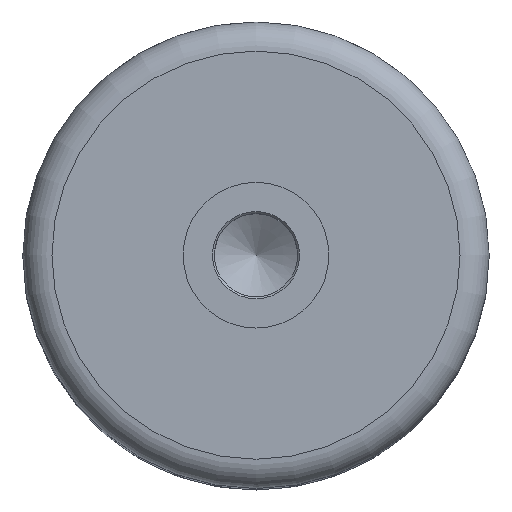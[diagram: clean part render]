
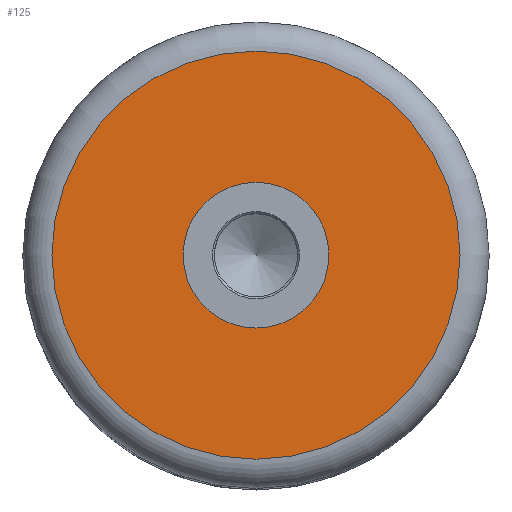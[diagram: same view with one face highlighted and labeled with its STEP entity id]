
A CAD part, top view. The second image highlights one B-rep face of the part: STEP entity #125.
In plain terms, the highlighted planar face has unit normal (0, 0, 1).
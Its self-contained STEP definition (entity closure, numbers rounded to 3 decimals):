
#125=ADVANCED_FACE('',(#219,#220),#221,.T.);
#219=FACE_BOUND('',#304,.T.);
#220=FACE_OUTER_BOUND('',#305,.T.);
#221=PLANE('',#306);
#304=EDGE_LOOP('',(#409));
#305=EDGE_LOOP('',(#410));
#306=AXIS2_PLACEMENT_3D('',#411,#412,#413);
#409=ORIENTED_EDGE('',*,*,#472,.F.);
#410=ORIENTED_EDGE('',*,*,#469,.T.);
#411=CARTESIAN_POINT('',(0.0,0.0,47.5));
#412=DIRECTION('',(0.0,0.0,1.0));
#413=DIRECTION('',(1.0,0.0,0.0));
#469=EDGE_CURVE('',#521,#521,#522,.T.);
#472=EDGE_CURVE('',#526,#526,#527,.T.);
#521=VERTEX_POINT('',#769);
#522=CIRCLE('',#770,21.0);
#526=VERTEX_POINT('',#774);
#527=CIRCLE('',#775,7.5);
#769=CARTESIAN_POINT('',(21.0,0.0,47.5));
#770=AXIS2_PLACEMENT_3D('',#824,#825,#826);
#774=CARTESIAN_POINT('',(7.5,0.0,47.5));
#775=AXIS2_PLACEMENT_3D('',#830,#831,#832);
#824=CARTESIAN_POINT('',(0.0,0.0,47.5));
#825=DIRECTION('',(0.0,0.0,1.0));
#826=DIRECTION('',(1.0,0.0,0.0));
#830=CARTESIAN_POINT('',(0.0,0.0,47.5));
#831=DIRECTION('',(0.0,0.0,1.0));
#832=DIRECTION('',(1.0,0.0,0.0));
